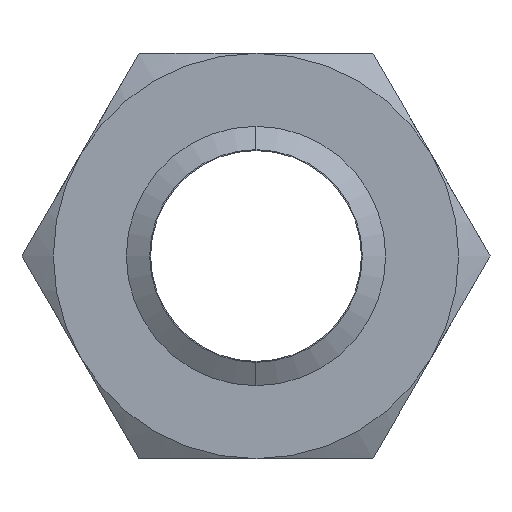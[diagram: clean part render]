
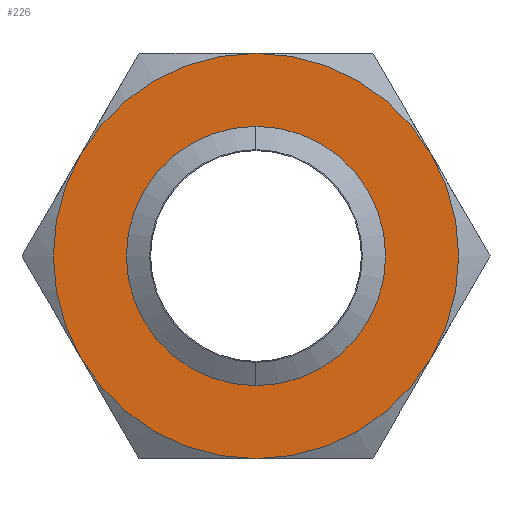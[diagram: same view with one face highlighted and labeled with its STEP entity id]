
A CAD part, front view. The second image highlights one B-rep face of the part: STEP entity #226.
In plain terms, the highlighted planar face has unit normal (0, -1, 0).
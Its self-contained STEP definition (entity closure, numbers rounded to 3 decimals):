
#209 = ORIENTED_EDGE ( 'NONE', *, *, #210, .F. ) ;
#210 = EDGE_CURVE ( 'NONE', #211, #227, #627, .T. ) ;
#211 = VERTEX_POINT ( 'NONE', #622 ) ;
#212 = EDGE_LOOP ( 'NONE', ( #213, #272 ) ) ;
#213 = ORIENTED_EDGE ( 'NONE', *, *, #2072, .F. ) ;
#214 = VERTEX_POINT ( 'NONE', #621 ) ;
#215 = ORIENTED_EDGE ( 'NONE', *, *, #216, .F. ) ;
#216 = EDGE_CURVE ( 'NONE', #227, #214, #681, .T. ) ;
#218 = EDGE_CURVE ( 'NONE', #214, #228, #676, .T. ) ;
#219 = EDGE_CURVE ( 'NONE', #220, #232, #672, .T. ) ;
#220 = VERTEX_POINT ( 'NONE', #667 ) ;
#221 = ORIENTED_EDGE ( 'NONE', *, *, #224, .F. ) ;
#222 = EDGE_LOOP ( 'NONE', ( #209, #230, #233, #221, #229, #215 ) ) ;
#224 = EDGE_CURVE ( 'NONE', #228, #220, #662, .T. ) ;
#226 = ADVANCED_FACE ( 'NONE', ( #657, #656 ), #655, .F. ) ;
#227 = VERTEX_POINT ( 'NONE', #710 ) ;
#228 = VERTEX_POINT ( 'NONE', #709 ) ;
#229 = ORIENTED_EDGE ( 'NONE', *, *, #218, .F. ) ;
#230 = ORIENTED_EDGE ( 'NONE', *, *, #231, .F. ) ;
#231 = EDGE_CURVE ( 'NONE', #232, #211, #708, .T. ) ;
#232 = VERTEX_POINT ( 'NONE', #703 ) ;
#233 = ORIENTED_EDGE ( 'NONE', *, *, #219, .F. ) ;
#272 = ORIENTED_EDGE ( 'NONE', *, *, #273, .F. ) ;
#273 = EDGE_CURVE ( 'NONE', #2070, #2066, #783, .T. ) ;
#621 = CARTESIAN_POINT ( 'NONE',  ( 32.476, 0., -18.75 ) ) ;
#622 = CARTESIAN_POINT ( 'NONE',  ( 0., 0., 37.5 ) ) ;
#623 = DIRECTION ( 'NONE',  ( 0., 0., 1. ) ) ;
#624 = DIRECTION ( 'NONE',  ( 0., 1., 0. ) ) ;
#625 = CARTESIAN_POINT ( 'NONE',  ( 0., 0., 0. ) ) ;
#626 = AXIS2_PLACEMENT_3D ( 'NONE', #625, #624, #623 ) ;
#627 = CIRCLE ( 'NONE', #626, 37.5 ) ;
#654 = AXIS2_PLACEMENT_3D ( 'NONE', #713, #712, #711 ) ;
#655 = PLANE ( 'NONE',  #654 ) ;
#656 = FACE_BOUND ( 'NONE', #212, .T. ) ;
#657 = FACE_OUTER_BOUND ( 'NONE', #222, .T. ) ;
#658 = DIRECTION ( 'NONE',  ( 0., 0., 1. ) ) ;
#659 = DIRECTION ( 'NONE',  ( 0., 1., 0. ) ) ;
#660 = CARTESIAN_POINT ( 'NONE',  ( 0., 0., 0. ) ) ;
#661 = AXIS2_PLACEMENT_3D ( 'NONE', #660, #659, #658 ) ;
#662 = CIRCLE ( 'NONE', #661, 37.5 ) ;
#667 = CARTESIAN_POINT ( 'NONE',  ( -32.476, 0., -18.75 ) ) ;
#668 = DIRECTION ( 'NONE',  ( 0., 0., 1. ) ) ;
#669 = DIRECTION ( 'NONE',  ( 0., 1., 0. ) ) ;
#670 = CARTESIAN_POINT ( 'NONE',  ( 0., 0., 0. ) ) ;
#671 = AXIS2_PLACEMENT_3D ( 'NONE', #670, #669, #668 ) ;
#672 = CIRCLE ( 'NONE', #671, 37.5 ) ;
#673 = DIRECTION ( 'NONE',  ( 0., 0., 1. ) ) ;
#674 = DIRECTION ( 'NONE',  ( 0., 1., 0. ) ) ;
#675 = AXIS2_PLACEMENT_3D ( 'NONE', #682, #674, #673 ) ;
#676 = CIRCLE ( 'NONE', #675, 37.5 ) ;
#677 = DIRECTION ( 'NONE',  ( 0., 0., 1. ) ) ;
#678 = DIRECTION ( 'NONE',  ( 0., 1., 0. ) ) ;
#679 = CARTESIAN_POINT ( 'NONE',  ( 0., 0., 0. ) ) ;
#680 = AXIS2_PLACEMENT_3D ( 'NONE', #679, #678, #677 ) ;
#681 = CIRCLE ( 'NONE', #680, 37.5 ) ;
#682 = CARTESIAN_POINT ( 'NONE',  ( 0., 0., 0. ) ) ;
#703 = CARTESIAN_POINT ( 'NONE',  ( -32.476, 0., 18.75 ) ) ;
#704 = DIRECTION ( 'NONE',  ( 0., 0., 1. ) ) ;
#705 = DIRECTION ( 'NONE',  ( 0., 1., 0. ) ) ;
#706 = CARTESIAN_POINT ( 'NONE',  ( 0., 0., 0. ) ) ;
#707 = AXIS2_PLACEMENT_3D ( 'NONE', #706, #705, #704 ) ;
#708 = CIRCLE ( 'NONE', #707, 37.5 ) ;
#709 = CARTESIAN_POINT ( 'NONE',  ( 0., 0., -37.5 ) ) ;
#710 = CARTESIAN_POINT ( 'NONE',  ( 32.476, 0., 18.75 ) ) ;
#711 = DIRECTION ( 'NONE',  ( 0., 0., 1. ) ) ;
#712 = DIRECTION ( 'NONE',  ( 0., 1., 0. ) ) ;
#713 = CARTESIAN_POINT ( 'NONE',  ( 21.651, 0., -37.5 ) ) ;
#779 = DIRECTION ( 'NONE',  ( 0., 0., -1. ) ) ;
#780 = DIRECTION ( 'NONE',  ( 0., -1., 0. ) ) ;
#781 = CARTESIAN_POINT ( 'NONE',  ( 0., 0., 0. ) ) ;
#782 = AXIS2_PLACEMENT_3D ( 'NONE', #781, #780, #779 ) ;
#783 = CIRCLE ( 'NONE', #782, 19.67 ) ;
#1527 = DIRECTION ( 'NONE',  ( 0., 0., -1. ) ) ;
#1528 = DIRECTION ( 'NONE',  ( 0., -1., 0. ) ) ;
#1529 = CARTESIAN_POINT ( 'NONE',  ( 0., 0., 0. ) ) ;
#1530 = AXIS2_PLACEMENT_3D ( 'NONE', #1529, #1528, #1527 ) ;
#1531 = CIRCLE ( 'NONE', #1530, 19.67 ) ;
#1532 = CARTESIAN_POINT ( 'NONE',  ( 0., 0., 19.67 ) ) ;
#1534 = CARTESIAN_POINT ( 'NONE',  ( 0., 0., -19.67 ) ) ;
#2066 = VERTEX_POINT ( 'NONE', #1534 ) ;
#2070 = VERTEX_POINT ( 'NONE', #1532 ) ;
#2072 = EDGE_CURVE ( 'NONE', #2066, #2070, #1531, .T. ) ;
